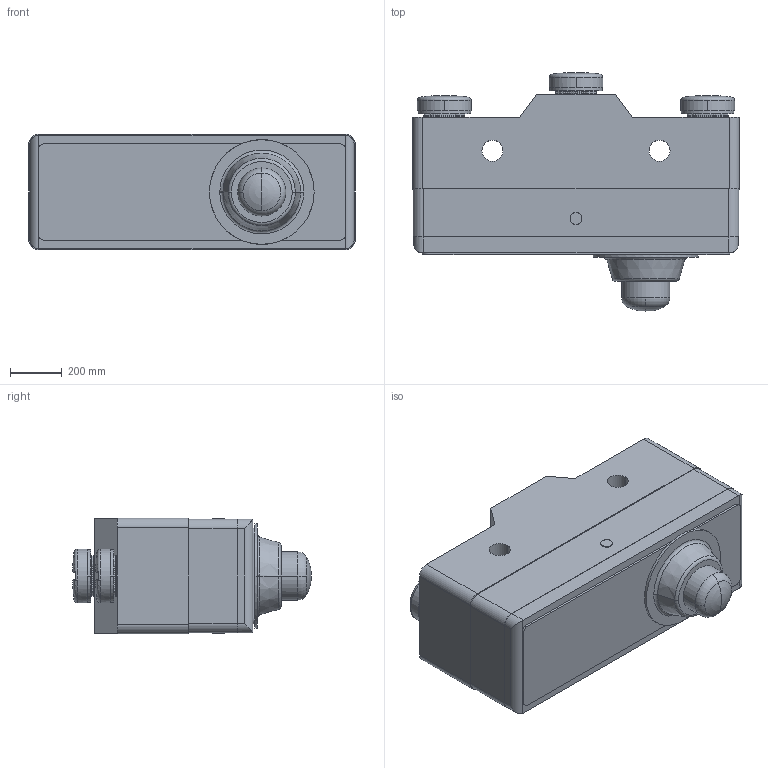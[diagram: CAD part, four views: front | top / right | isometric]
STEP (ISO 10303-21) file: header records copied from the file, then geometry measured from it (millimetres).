
FILE_DESCRIPTION((''),'2;1');
FILE_NAME('PRT0017','2016-08-15T',('ABS'),(''),'PRO/ENGINEER BY PARAMETRIC TECHNOLOGY CORPORATION, 2012360','PRO/ENGINEER BY PARAMETRIC TECHNOLOGY CORPORATION, 2012360','');
FILE_SCHEMA(('CONFIG_CONTROL_DESIGN'));
Length unit declared in the file: millimetre
Products named in the file (1): PRT0017
Bounding box: 1259.84 x 921.84 x 447.04 mm (x, y, z)
Volume: 280521152.5 mm3; surface area: 6681541.6 mm2
Topology: 2 solids, 15 shells, 778 faces, 2195 edges, 1455 vertices
Faces by surface type: cylinder 476, plane 180, bspline 57, torus 44, sphere 17, cone 4
Entity records: 31559 total; most frequent: CARTESIAN_POINT 12052, ORIENTED_EDGE 4364, DIRECTION 3755, EDGE_CURVE 2182, VERTEX_POINT 1455, AXIS2_PLACEMENT_3D 1446, VECTOR 863, LINE 863
